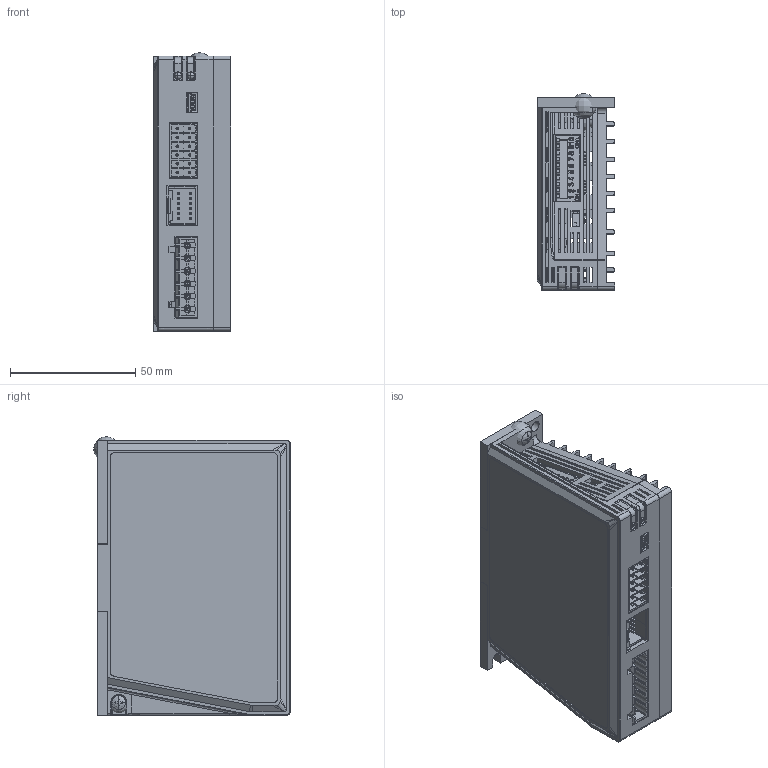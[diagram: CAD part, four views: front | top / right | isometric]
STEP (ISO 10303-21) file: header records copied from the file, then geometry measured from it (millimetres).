
FILE_DESCRIPTION(/* description */ (''),/* implementation_level */ '2;1');
FILE_NAME(/* name */ 'DP3F-705+305-官网图',/* time_stamp */ '2023-04-03T14:53:28+08:00',/* author */ (''),/* organization */ (''),/* preprocessor_version */ 'ST-DEVELOPER v15',/* originating_system */ '',/* authorisation */ '');
FILE_SCHEMA (('AUTOMOTIVE_DESIGN'));
Products named in the file (1): Document
Bounding box: 31 x 78.5 x 111.35 mm (x, y, z)
Volume: 2093.8 mm3; surface area: 70633.7 mm2
Topology: 4 solids, 3949 shells, 3953 faces, 22278 edges, 22242 vertices
Faces by surface type: plane 3390, bspline 563
Entity records: 210867 total; most frequent: CARTESIAN_POINT 89282, ORIENTED_EDGE 22252, EDGE_CURVE 22244, VERTEX_POINT 22242, B_SPLINE_CURVE_WITH_KNOTS 20375, EDGE_LOOP 4207, ADVANCED_FACE 3953, FACE_OUTER_BOUND 3953
